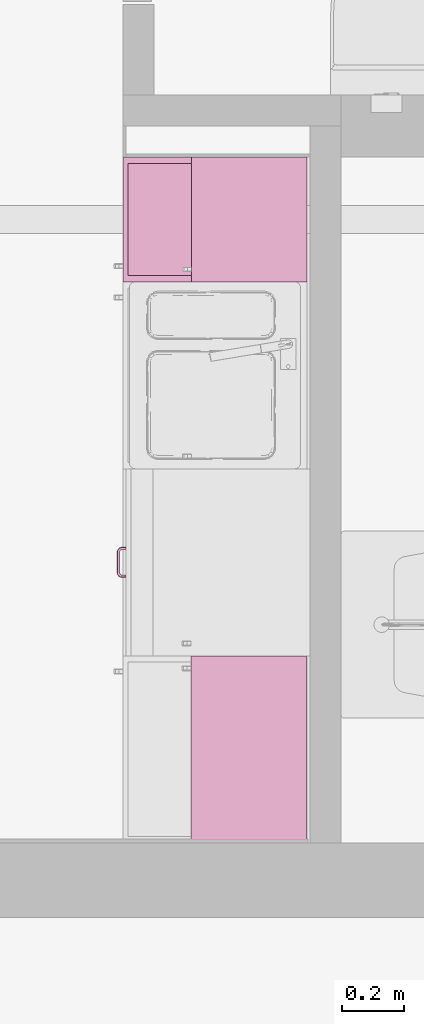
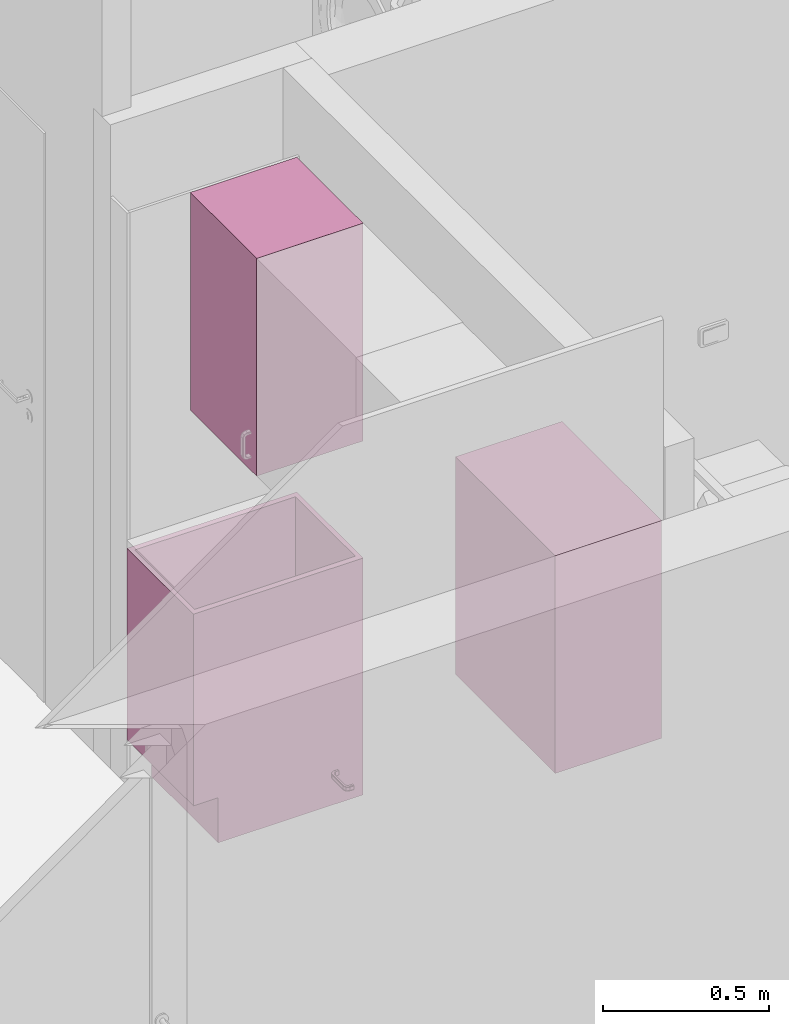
# One storey, part 14 of 15: 4 furnishings.
"""IFC2X3 building model written with IfcOpenShell, lengths in millimetres."""

from ifc_helpers import new_model, entity, si_unit, converted_unit, direction, frame, origin, place, context, subcontext, project, spatial, faceted_brep, source, transform, mapped, material, material_list, type_object, type_shapes, element, save


model = new_model("IFC2X3")

# Units and contexts
model_context = context("Model", 3, precision=0.01, world=origin(), true_north=direction((0.0, 1.0)))
body_context = subcontext(model_context, "Body", "Model", "MODEL_VIEW")
ifc_project = project(units=[si_unit("LENGTHUNIT", "METRE", prefix="MILLI"), si_unit("AREAUNIT", "SQUARE_METRE"), si_unit("VOLUMEUNIT", "CUBIC_METRE"), converted_unit("PLANEANGLEUNIT", "DEGREE", entity("IfcPlaneAngleMeasure", 0.017453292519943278), si_unit("PLANEANGLEUNIT", "RADIAN"), dimensions=[0, 0, 0, 0, 0, 0, 0])], contexts=[model_context])

# Site, building, storey, space
site_placement = place(None, origin())
site = spatial("IfcSite", under=ifc_project, at=site_placement, Name="Default", CompositionType="ELEMENT")
building_placement = place(site_placement, origin())
building = spatial("IfcBuilding", under=site, at=building_placement, CompositionType="ELEMENT")
storey_placement = place(building_placement, origin())
storey = spatial("IfcBuildingStorey", under=building, at=storey_placement, Name="Et. 1", CompositionType="ELEMENT", Elevation=0.0)
space_placement = place(storey_placement, frame((11562.567419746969, 11865.190261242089, 0.0)))
space = spatial("IfcSpace", under=storey, at=space_placement, Name="107", CompositionType="ELEMENT", InteriorOrExteriorSpace="INTERNAL")

# Furnishings
ifc_material_1 = material(Name="Focus - Kjøkken - Front")
ifc_material_2 = material(Name="Focus - Kjøkken - Skapstamme")
ifc_material_list = material_list([ifc_material_1, ifc_material_2])
furniture_type_1 = type_object("IfcFurnitureType", Name="Focus - Kjøkken - Benkeskap  1  dør:400 mm", AssemblyPlace="NOTDEFINED", material=ifc_material_list)
shared_shape_1 = source(origin(), body_context, "Body", "Brep", [
    faceted_brep([(-54.58506095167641, 177.81681120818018, 870.0), (-54.58506095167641, 177.81681120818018, 166.0), (-454.5850609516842, 177.81681120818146, 166.0), (-454.5850609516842, 177.81681120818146, 870.0), (-54.58506095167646, 161.81681120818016, 870.0), (-454.5850609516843, 161.81681120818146, 870.0), (-454.5850609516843, 161.81681120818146, 166.0), (-54.58506095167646, 161.81681120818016, 166.0)], [[[0, 1, 2, 3]], [[4, 5, 6, 7]], [[1, 0, 4, 7]], [[2, 1, 7, 6]], [[3, 2, 6, 5]], [[0, 3, 5, 4]]]),
    faceted_brep([(-54.58506095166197, 751.8168112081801, 166.0), (-454.5850609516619, 751.8168112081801, 166.0), (-454.5850609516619, 247.81681120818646, 166.0), (-54.58506095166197, 247.81681120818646, 166.0), (-54.58506095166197, 751.8168112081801, 0.0), (-54.58506095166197, 247.81681120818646, 0.0), (-454.5850609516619, 247.81681120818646, 0.0), (-454.5850609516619, 751.8168112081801, 0.0)], [[[0, 1, 2, 3]], [[4, 5, 6, 7]], [[1, 0, 4, 7]], [[2, 1, 7, 6]], [[3, 2, 6, 5]], [[0, 3, 5, 4]]]),
    faceted_brep([(-434.58506095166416, 177.81681120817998, 870.0), (-454.58506095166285, 177.81681120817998, 870.0), (-454.58506095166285, 177.81681120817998, 166.0), (-54.585060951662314, 177.81681120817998, 166.0), (-54.585060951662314, 177.81681120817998, 870.0), (-74.58506095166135, 177.81681120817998, 870.0), (-74.58506095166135, 177.81681120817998, 190.0), (-434.58506095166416, 177.81681120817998, 190.0), (-54.585060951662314, 751.8168112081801, 870.0), (-54.585060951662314, 751.8168112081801, 166.0), (-454.58506095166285, 751.8168112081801, 166.0), (-454.58506095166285, 751.8168112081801, 870.0), (-434.58506095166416, 735.8168112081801, 870.0), (-74.58506095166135, 735.8168112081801, 870.0), (-454.58506095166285, 735.8168112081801, 166.0), (-54.585060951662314, 735.8168112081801, 166.0), (-74.58506095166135, 735.8168112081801, 190.0), (-434.58506095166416, 735.8168112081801, 190.0)], [[[0, 1, 2, 3, 4, 5, 6, 7]], [[8, 9, 10, 11]], [[1, 0, 12, 13, 5, 4, 8, 11]], [[2, 1, 11, 10, 14]], [[3, 2, 14, 10, 9, 15]], [[8, 4, 3, 15, 9]], [[6, 5, 13, 16]], [[7, 6, 16, 17]], [[0, 7, 17, 12]], [[13, 12, 17, 16]]]),
])
type_shapes(furniture_type_1, [shared_shape_1])
furnishing_1_placement = place(space_placement, frame((4876.183188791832, 1733.4149390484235, 0.0), z_axis=(0.0, 0.0, 1.0), x_axis=(0.0, -1.0, 0.0)))
element("IfcFurnishingElement", 1, at=furnishing_1_placement, inside=space, type_object=furniture_type_1, material=ifc_material_list, Name="Focus - Kjøkken - Benkeskap  1  dør:400 mm", context=body_context, shape_type="MappedRepresentation", body=[
    mapped(shared_shape_1, transform((0.0, 0.0, 0.0), scale=1.0)),
])
furniture_type_2 = type_object("IfcFurnitureType", Name="Focus - Kjøkken - Veggskap 1 dør:600x370x400", AssemblyPlace="NOTDEFINED", material=ifc_material_list)
shared_shape_2 = source(origin(), body_context, "Body", "Brep", [
    faceted_brep([(45.41493904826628, -397.81681120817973, 2100.0), (-554.5850609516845, -397.8168112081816, 2100.0), (-554.5850609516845, -397.8168112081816, 1300.0), (45.414939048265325, -397.81681120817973, 1300.0), (45.41493904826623, -381.8168112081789, 2100.0), (45.414939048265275, -381.8168112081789, 1300.0), (-554.5850609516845, -381.81681120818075, 1300.0), (-554.5850609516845, -381.81681120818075, 2100.0)], [[[0, 1, 2, 3]], [[4, 5, 6, 7]], [[3, 5, 4, 0]], [[2, 6, 5, 3]], [[1, 7, 6, 2]], [[0, 4, 7, 1]]]),
    faceted_brep([(45.41493904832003, -751.816811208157, 2100.0), (45.4149390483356, -397.8168112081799, 2100.0), (-554.5850609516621, -397.8168112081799, 2100.0), (-554.5850609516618, -751.816811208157, 2100.0), (45.41493904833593, -397.8168112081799, 1300.0), (45.41493904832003, -751.8168112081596, 1300.0), (-554.5850609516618, -751.8168112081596, 1300.0), (-554.5850609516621, -397.8168112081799, 1300.0), (-538.5850609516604, -735.8168112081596, 1316.0), (-538.5850609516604, -735.816811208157, 2084.0), (29.414939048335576, -735.816811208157, 2084.0), (29.414939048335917, -735.8168112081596, 1316.0), (29.414939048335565, -397.8168112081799, 2084.0), (-538.5850609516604, -397.8168112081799, 2084.0), (-538.5850609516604, -397.8168112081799, 1316.0), (29.414939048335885, -397.8168112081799, 1316.0)], [[[0, 1, 2, 3]], [[4, 5, 6, 7]], [[3, 6, 5, 0]], [[2, 7, 6, 3]], [[8, 9, 10, 11]], [[0, 5, 4, 1]], [[1, 4, 7, 2], [12, 13, 14, 15]], [[14, 8, 11, 15]], [[13, 9, 8, 14]], [[12, 10, 9, 13]], [[15, 11, 10, 12]]]),
])
type_shapes(furniture_type_2, [shared_shape_2])
furnishing_2_placement = place(space_placement, frame((4874.183188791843, 542.5850609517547, 0.0), z_axis=(0.0, 0.0, 1.0), x_axis=(0.0, 1.0, 0.0)))
element("IfcFurnishingElement", 2, at=furnishing_2_placement, inside=space, type_object=furniture_type_2, material=ifc_material_list, Name="Focus - Kjøkken - Veggskap 1 dør:600x370x400", context=body_context, shape_type="MappedRepresentation", body=[
    mapped(shared_shape_2, transform((0.0, 0.0, 0.0), scale=1.0)),
])
furniture_type_3 = type_object("IfcFurnitureType", Name="Focus - Kjøkken - Veggskap 1 dør:400x370x800", AssemblyPlace="NOTDEFINED", material=ifc_material_list)
shared_shape_3 = source(origin(), body_context, "Body", "Brep", [
    faceted_brep([(-54.58506095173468, 397.8168112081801, 2100.0), (-54.58506095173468, 397.8168112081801, 1300.0), (-454.58506095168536, 397.8168112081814, 1300.0), (-454.58506095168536, 397.8168112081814, 2100.0), (-54.58506095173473, 381.8168112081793, 2100.0), (-454.5850609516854, 381.8168112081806, 2100.0), (-454.5850609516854, 381.8168112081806, 1300.0), (-54.58506095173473, 381.8168112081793, 1300.0)], [[[0, 1, 2, 3]], [[4, 5, 6, 7]], [[1, 0, 4, 7]], [[2, 1, 7, 6]], [[3, 2, 6, 5]], [[0, 3, 5, 4]]]),
    faceted_brep([(-54.58506095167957, 751.8168112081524, 2100.0), (-454.5850609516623, 751.8168112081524, 2100.0), (-454.585060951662, 397.8168112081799, 2100.0), (-54.58506095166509, 397.8168112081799, 2100.0), (-54.58506095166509, 397.8168112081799, 1300.0), (-454.585060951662, 397.8168112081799, 1300.0), (-454.5850609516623, 751.8168112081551, 1300.0), (-54.58506095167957, 751.8168112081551, 1300.0), (-438.58506095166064, 735.816811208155, 1316.0), (-70.5850609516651, 735.816811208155, 1316.0), (-70.5850609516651, 735.8168112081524, 2084.0), (-438.58506095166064, 735.8168112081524, 2084.0), (-70.5850609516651, 397.8168112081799, 2084.0), (-70.5850609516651, 397.8168112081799, 1316.0), (-438.58506095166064, 397.8168112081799, 1316.0), (-438.58506095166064, 397.8168112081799, 2084.0)], [[[0, 1, 2, 3]], [[4, 5, 6, 7]], [[1, 0, 7, 6]], [[2, 1, 6, 5]], [[8, 9, 10, 11]], [[0, 3, 4, 7]], [[3, 2, 5, 4], [12, 13, 14, 15]], [[14, 13, 9, 8]], [[15, 14, 8, 11]], [[12, 15, 11, 10]], [[13, 12, 10, 9]]]),
])
type_shapes(furniture_type_3, [shared_shape_3])
furnishing_3_placement = place(space_placement, frame((4876.183188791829, 1733.4149390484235, 0.0), z_axis=(0.0, 0.0, 1.0), x_axis=(0.0, -1.0, 0.0)))
element("IfcFurnishingElement", 3, at=furnishing_3_placement, inside=space, type_object=furniture_type_3, material=ifc_material_list, Name="Focus - Kjøkken - Veggskap 1 dør:400x370x800", context=body_context, shape_type="MappedRepresentation", body=[
    mapped(shared_shape_3, transform((0.0, 0.0, 0.0), scale=1.0)),
])
ifc_material_3 = material(Name="Focus - Kjøkken - Håndtak")
furniture_type_4 = type_object("IfcFurnitureType", Name="Focus - Håndtak Skuff:Håndtak skuff", AssemblyPlace="NOTDEFINED", material=ifc_material_3)
shared_shape_4 = source(origin(), body_context, "Body", "Brep", [
    faceted_brep([(-49.01997065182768, 0.0, -6.018434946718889), (-49.02222703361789, 0.0, 5.981564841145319), (-48.436706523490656, 0.0, 7.395888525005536), (-47.022603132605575, 0.0, 7.981940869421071), (-40.98040382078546, 0.0, 7.983076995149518), (-40.97739531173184, 0.0, -8.0169227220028), (-47.01959462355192, 0.0, -8.018058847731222), (-48.433918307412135, 0.0, -7.432538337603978), (47.022603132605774, 0.0, -8.000375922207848), (40.980403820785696, 0.0, -8.001512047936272), (40.97739531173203, 0.0, 7.9984876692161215), (47.01959462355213, 0.0, 7.999623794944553), (48.43391830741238, 0.0, 7.414103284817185), (49.01997065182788, 0.0, 5.999999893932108), (49.02222703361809, 0.0, -5.9999998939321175), (48.436706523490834, 0.0, -7.414323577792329), (-49.02222703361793, -13.0, 5.981564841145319), (-48.43670652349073, -13.0, 7.395888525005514), (-47.729654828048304, -13.0, 7.688914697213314), (-47.022603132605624, -13.0, 7.981940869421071), (-45.53091023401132, -16.601265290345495, 7.982221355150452), (-44.223414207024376, -19.757839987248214, 7.982467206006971), (-42.91591818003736, -22.91441468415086, 7.9827130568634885), (-40.43731455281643, -23.941085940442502, 7.983179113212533), (-37.95871092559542, -24.96775719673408, 7.983645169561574), (-35.48010729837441, -25.99442845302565, 7.984111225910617), (-33.0015036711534, -27.02109970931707, 7.984577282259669), (-20.656464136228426, -27.021099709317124, 7.9868985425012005), (-8.311424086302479, -27.02109970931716, 7.989219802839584), (2.0160558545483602, -27.02109970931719, 7.991161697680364), (12.343535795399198, -27.02109970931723, 7.993103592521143), (20.653455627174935, -27.02109970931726, 7.9946661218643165), (32.9984951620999, -27.021099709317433, 7.996987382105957), (36.599760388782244, -25.529406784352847, 7.99766453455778), (39.75633502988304, -24.221910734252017, 7.99825807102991), (42.912909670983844, -22.914414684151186, 7.998851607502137), (43.939580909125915, -20.435811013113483, 7.999044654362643), (44.966252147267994, -17.957207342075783, 7.999237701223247), (45.99292338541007, -15.478603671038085, 7.99943074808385), (47.01959462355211, -13.0, 7.9996237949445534), (40.97739531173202, -13.0, 7.998487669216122), (38.64042956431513, -18.64193450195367, 7.998048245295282), (32.998495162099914, -20.97890029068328, 7.996987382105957), (-33.00150367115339, -20.978900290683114, 7.984577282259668), (-38.64343807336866, -18.64193450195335, 7.983516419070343), (-40.980403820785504, -13.0, 7.983076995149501), (-40.97739531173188, -13.0, -8.016922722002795), (47.022603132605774, -13.0, -8.000375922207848), (45.53091021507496, -16.601265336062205, -8.000656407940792), (44.2234141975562, -19.757840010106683, -8.00090225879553), (42.915918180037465, -22.914414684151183, -8.001148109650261), (40.43731455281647, -23.941085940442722, -8.00161416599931), (37.95871092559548, -24.967757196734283, -8.002080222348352), (35.4801072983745, -25.994428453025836, -8.002546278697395), (33.00150367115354, -27.021099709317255, -8.003012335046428), (20.656463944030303, -27.021099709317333, -8.005333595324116), (10.32898409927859, -27.02109970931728, -8.007275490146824), (0.0015042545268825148, -27.021099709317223, -8.009217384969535), (-10.325975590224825, -27.021099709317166, -8.011159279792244), (-20.653455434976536, -27.02109970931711, -8.013101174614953), (-32.998495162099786, -27.021099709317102, -8.01542243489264), (-36.599760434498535, -25.529406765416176, -8.016099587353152), (-39.75633505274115, -24.221910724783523, -8.016693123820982), (-42.91290967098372, -22.91441468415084, -8.017286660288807), (-43.93958090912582, -20.435811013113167, -8.017479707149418), (-44.9662521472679, -17.957207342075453, -8.017672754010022), (-45.99292338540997, -15.478603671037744, -8.017865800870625), (-47.01959462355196, -13.0, -8.01805884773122), (-38.64042956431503, -18.64193450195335, -8.01648329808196), (-32.99849516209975, -20.97890029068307, -8.01542243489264), (33.001503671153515, -20.978900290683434, -8.003012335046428), (38.64343807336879, -18.641934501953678, -8.00195147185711), (40.980403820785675, -13.0, -8.001512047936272), (-48.4339183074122, -13.0, -7.4325383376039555), (-48.80321719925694, -13.0, -6.541445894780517), (-49.0199706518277, -13.0, -6.018434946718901), (-44.412974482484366, -22.64140263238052, 7.759259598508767), (-46.35897290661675, -19.755916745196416, 7.743265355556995), (-40.207409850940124, -25.954055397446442, 7.815248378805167), (-44.329755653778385, -24.328628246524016, 5.982447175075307), (-43.3815306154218, -25.002953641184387, 6.747992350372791), (-45.57655804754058, -22.341444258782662, 7.121035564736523), (-46.03884122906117, -20.202530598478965, 5.982125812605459), (-47.865589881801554, -17.92350079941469, 7.1303130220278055), (-38.60103139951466, -27.65191996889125, 7.0924541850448), (-40.203658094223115, -26.037713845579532, 5.983223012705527), (-38.66544163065, -26.674863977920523, 5.983512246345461), (-36.60239285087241, -27.529406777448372, 5.983900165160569), (-42.26670687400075, -25.183171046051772, 5.982835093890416), (-36.525296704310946, -27.45420228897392, 7.7912613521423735), (-47.50416098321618, -16.529274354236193, 7.765454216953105), (-47.53053413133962, -16.6012652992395, 5.981845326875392), (-42.18138620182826, -25.408731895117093, 7.397064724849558), (-41.087587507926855, -26.597477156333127, 6.85663739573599), (-45.50287349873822, -21.49647118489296, 5.982226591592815), (-33.00122595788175, -28.804444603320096, 6.507629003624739), (-35.69791310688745, -28.53877057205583, 6.952460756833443), (-35.83328461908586, -27.847981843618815, 5.984044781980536), (-33.00112760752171, -29.02109970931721, 5.98457731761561), (-33.001393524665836, -28.435313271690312, 7.398790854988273), (-46.675991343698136, -18.66431412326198, 5.98200600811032), (-41.49759864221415, -25.501746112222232, 5.982979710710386), (-47.52827775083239, -16.601265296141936, -6.0181544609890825), (-47.84685280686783, -15.832157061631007, -6.018214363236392), (-36.52781006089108, -27.50269824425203, -7.799689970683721), (-39.75445657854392, -26.357514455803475, -7.777892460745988), (-47.65058244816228, -18.5996953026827, -7.127107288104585), (-46.036584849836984, -20.202530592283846, -6.017873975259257), (-46.67373496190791, -18.66431412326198, -6.017993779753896), (-47.70896034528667, -16.04875452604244, -7.749127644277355), (-46.59154452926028, -19.340507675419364, -7.762569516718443), (-46.373359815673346, -21.540484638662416, -6.783304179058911), (-45.18204206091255, -22.26557941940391, -6.017713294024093), (-45.500617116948, -21.49647118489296, -6.017773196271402), (-37.92215596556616, -27.864246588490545, -7.164878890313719), (-42.34010114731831, -25.575216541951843, -7.156001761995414), (-40.20140170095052, -26.037713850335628, -6.016776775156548), (-45.40733702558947, -22.17999277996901, -7.4319692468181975), (-42.63993947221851, -24.41151305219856, -7.794063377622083), (-44.52051892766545, -23.855367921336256, -6.870601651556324), (-32.998605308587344, -28.435313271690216, -7.429636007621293), (-36.600136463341, -27.529406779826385, -6.016099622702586), (-41.49534226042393, -25.501746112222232, -6.0170200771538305), (-44.32749927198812, -24.32862824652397, -6.0175526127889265), (-32.99855023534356, -27.72820649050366, -7.722529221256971), (-48.53745944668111, -15.696603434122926, -6.9867347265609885), (-32.99887122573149, -29.02109970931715, -6.015422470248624), (-38.663185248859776, -26.674863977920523, -6.016487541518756), (-15.492613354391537, -28.43531328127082, 7.402083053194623), (20.6538311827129, -29.021099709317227, 5.994666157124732), (32.99860530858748, -28.435313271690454, 7.4112009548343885), (16.49860559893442, -28.435313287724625, 7.408098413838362), (-3.14758080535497, -28.397558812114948, 7.441176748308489), (32.99855023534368, -27.728206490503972, 7.704094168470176), (32.99887122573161, -29.02109970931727, 5.996987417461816), (-20.65608796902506, -29.0210997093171, 5.986898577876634), (-10.328607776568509, -29.02109970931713, 5.988840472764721), (10.326351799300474, -29.02109970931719, 5.99272426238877), (-0.0011279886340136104, -29.021099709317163, 5.990782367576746), (-15.489824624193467, -28.435313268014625, -7.426343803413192), (-8.308791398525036, -29.02109970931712, -6.010779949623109), (-20.653831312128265, -29.02109970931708, -6.013101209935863), (20.656087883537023, -29.021099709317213, -6.005333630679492), (12.346168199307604, -29.02109970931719, -6.006896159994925), (2.0186884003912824, -29.021099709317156, -6.008838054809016), (16.501393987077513, -28.435313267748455, -7.42032843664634), (33.001393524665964, -28.43531327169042, -7.417225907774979), (33.00122595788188, -28.80444460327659, -6.526064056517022), (33.00112760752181, -29.021099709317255, -6.003012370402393), (-3.1447921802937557, -28.47208571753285, -7.386268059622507), (42.6399395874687, -24.41151297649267, 7.775628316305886), (39.75445668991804, -26.3575143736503, 7.75945742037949), (45.95258191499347, -20.20593789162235, 7.831449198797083), (44.32749927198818, -24.328628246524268, 5.9991175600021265), (45.18204205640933, -22.26557943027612, 5.999278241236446), (45.00168074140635, -23.380259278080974, 6.76461120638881), (40.20140169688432, -26.03771385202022, 5.998341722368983), (42.340101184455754, -25.575216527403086, 7.137566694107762), (37.9221559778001, -27.86424657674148, 7.14644384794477), (47.65058242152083, -18.599695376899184, 7.108672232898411), (46.03658484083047, -20.20253061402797, 5.999438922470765), (46.67373496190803, -18.664314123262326, 5.999558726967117), (47.528277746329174, -16.60126530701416, 5.999719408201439), (46.596183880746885, -21.08629578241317, 6.873124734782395), (45.500617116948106, -21.4964711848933, 5.999338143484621), (47.452733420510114, -16.52382932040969, 7.807051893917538), (36.52781014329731, -27.502698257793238, 7.781254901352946), (36.60013646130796, -27.52940678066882, 5.997664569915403), (45.40733698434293, -22.17999283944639, 7.413534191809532), (41.49534226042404, -25.501746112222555, 5.998585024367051), (48.80321719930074, -13.0, 6.52301084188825), (48.53745943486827, -15.696603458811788, 6.968299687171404), (47.84685280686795, -15.832157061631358, 5.999779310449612), (49.01997065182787, -13.0, 5.999999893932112), (48.43391830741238, -13.0, 7.41410328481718), (38.66318524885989, -26.674863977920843, 5.998052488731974), (36.60239284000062, -27.52940678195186, -6.002335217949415), (35.83328461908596, -27.847981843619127, -6.002479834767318), (47.504160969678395, -16.529274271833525, -7.7838892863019), (46.35897298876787, -19.755916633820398, -7.761700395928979), (38.60103132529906, -27.651919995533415, -7.110889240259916), (40.20365807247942, -26.037713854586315, -6.001658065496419), (38.66544163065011, -26.67486397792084, -6.001947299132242), (36.050207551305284, -27.710414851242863, -7.733378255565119), (39.34196320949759, -26.593001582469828, -7.746411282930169), (41.54175600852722, -26.374632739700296, -6.766773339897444), (42.26670686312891, -25.183171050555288, -6.001270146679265), (41.49759864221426, -25.501746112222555, -6.001414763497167), (47.86558989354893, -17.923500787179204, -7.148748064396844), (45.57655806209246, -22.341444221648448, -7.13947063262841), (46.03884122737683, -20.20253060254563, -6.00056086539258), (42.18138614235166, -25.408731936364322, -7.41549977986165), (44.412974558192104, -22.64140251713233, -7.777694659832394), (43.85665573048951, -24.521808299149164, -6.853983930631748), (48.436706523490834, -13.0, -7.414323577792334), (47.530534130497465, -16.601265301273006, -6.000280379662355), (45.50287349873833, -21.496471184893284, -6.000661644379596), (44.3297556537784, -24.32862824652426, -6.00088222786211), (47.729654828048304, -13.0, -7.707349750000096), (35.697913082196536, -28.538770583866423, -6.970895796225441), (49.02222703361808, -13.0, -5.99999989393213), (46.675991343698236, -18.6643141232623, -6.000441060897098)], [[[0, 1, 2, 3, 4, 5, 6, 7]], [[8, 9, 10, 11, 12, 13, 14, 15]], [[16, 17, 2, 1]], [[2, 17, 18, 19, 3]], [[4, 3, 19, 20, 21, 22, 23, 24, 25, 26, 27, 28, 29, 30, 31, 32, 33, 34, 35, 36, 37, 38, 39, 11, 10, 40, 41, 42, 43, 44, 45]], [[5, 4, 45, 46]], [[9, 8, 47, 48, 49, 50, 51, 52, 53, 54, 55, 56, 57, 58, 59, 60, 61, 62, 63, 64, 65, 66, 67, 6, 5, 46, 68, 69, 70, 71, 72]], [[67, 73, 7, 6]], [[7, 73, 74, 75, 0]], [[1, 0, 75, 16]], [[76, 21, 77]], [[78, 24, 23]], [[79, 80, 81]], [[82, 81, 83]], [[84, 85, 86, 87]], [[80, 79, 88]], [[89, 24, 78]], [[90, 77, 20]], [[17, 91, 83]], [[92, 93, 84]], [[81, 82, 94, 79]], [[87, 95, 96]], [[77, 83, 81]], [[23, 76, 78]], [[93, 92, 80]], [[22, 76, 23]], [[90, 17, 83]], [[19, 18, 17, 90]], [[95, 87, 97, 98]], [[99, 26, 89]], [[76, 77, 81]], [[20, 19, 90]], [[92, 76, 81]], [[21, 76, 22]], [[21, 20, 77]], [[83, 77, 90]], [[91, 17, 16]], [[83, 91, 100, 82]], [[93, 88, 101, 85]], [[81, 80, 92]], [[88, 93, 80]], [[85, 84, 93]], [[76, 92, 78]], [[92, 84, 78]], [[89, 78, 84]], [[84, 96, 89]], [[89, 26, 25, 24]], [[96, 95, 99]], [[89, 96, 99]], [[87, 96, 84]], [[44, 68, 46, 45]], [[43, 69, 68, 44]], [[74, 102, 103, 75]], [[104, 105, 61]], [[106, 107, 108, 102]], [[109, 110, 106]], [[111, 112, 113, 107]], [[105, 114, 115]], [[115, 114, 116]], [[110, 64, 117]], [[118, 62, 105]], [[106, 110, 117]], [[117, 119, 111]], [[120, 121, 114]], [[115, 116, 122, 123]], [[112, 111, 119]], [[111, 106, 117]], [[63, 118, 64]], [[104, 120, 114]], [[60, 124, 120, 104]], [[109, 125, 73]], [[125, 109, 106]], [[118, 105, 115]], [[61, 60, 104]], [[118, 115, 119]], [[62, 118, 63]], [[62, 61, 105]], [[114, 105, 104]], [[121, 120, 126]], [[114, 121, 127, 116]], [[106, 111, 107]], [[118, 119, 117]], [[115, 123, 119]], [[112, 119, 123]], [[64, 118, 117]], [[125, 74, 73]], [[102, 74, 125]], [[102, 125, 106]], [[73, 67, 109]], [[66, 65, 64, 110]], [[110, 109, 66]], [[109, 67, 66]], [[122, 116, 127, 121, 126, 98, 97, 87, 86, 85, 101, 88, 79, 123]], [[79, 94, 82, 100, 91, 16, 75, 103, 102, 108, 107, 113, 112, 123]], [[128, 27, 99]], [[129, 130, 131]], [[29, 132, 131]], [[31, 130, 133, 32]], [[27, 26, 99]], [[129, 134, 130]], [[135, 99, 95, 98]], [[128, 99, 135, 136]], [[31, 30, 29, 131]], [[136, 132, 128]], [[31, 131, 130]], [[28, 27, 128]], [[132, 137, 131]], [[28, 132, 29]], [[136, 138, 137, 132]], [[28, 128, 132]], [[137, 129, 131]], [[69, 43, 42, 70]], [[139, 140, 141, 126, 120]], [[142, 143, 144, 145, 146, 147, 148]], [[55, 146, 145, 56]], [[139, 59, 58]], [[144, 149, 145]], [[55, 54, 146]], [[139, 120, 124, 60, 59]], [[58, 149, 139]], [[149, 56, 145]], [[140, 149, 144]], [[58, 57, 56, 149]], [[140, 139, 149]], [[126, 141, 140, 144, 143, 142, 148, 134, 129, 137, 138, 136, 135, 98]], [[150, 34, 151]], [[152, 37, 36]], [[153, 154, 155]], [[156, 157, 158]], [[159, 160, 161, 162]], [[163, 154, 164, 160]], [[165, 37, 152]], [[166, 151, 33]], [[130, 167, 158]], [[168, 163, 159]], [[157, 156, 169, 153]], [[162, 170, 171]], [[151, 158, 157]], [[36, 150, 152]], [[163, 168, 155]], [[35, 150, 36]], [[166, 130, 158]], [[32, 133, 130, 166]], [[170, 162, 172, 173]], [[174, 39, 165]], [[150, 151, 157]], [[33, 32, 166]], [[168, 150, 157]], [[34, 150, 35]], [[34, 33, 151]], [[158, 151, 166]], [[167, 130, 134]], [[158, 167, 175, 156]], [[168, 157, 155]], [[157, 153, 155]], [[154, 163, 155]], [[160, 159, 163]], [[150, 168, 152]], [[168, 159, 152]], [[165, 152, 159]], [[159, 171, 165]], [[165, 39, 38, 37]], [[171, 170, 174]], [[165, 171, 174]], [[162, 171, 159]], [[41, 71, 70, 42]], [[40, 72, 71, 41]], [[147, 176, 177, 148]], [[178, 179, 48]], [[180, 181, 182, 176]], [[183, 184, 180]], [[185, 186, 187, 181]], [[179, 188, 189]], [[189, 188, 190]], [[184, 51, 191]], [[192, 49, 179]], [[180, 184, 191]], [[191, 193, 185]], [[194, 195, 188]], [[189, 190, 196, 197]], [[186, 185, 193]], [[193, 191, 192]], [[50, 192, 51]], [[178, 194, 188]], [[47, 198, 194, 178]], [[183, 199, 146]], [[199, 183, 180]], [[192, 179, 189]], [[48, 47, 178]], [[192, 189, 193]], [[49, 192, 50]], [[49, 48, 179]], [[188, 179, 178]], [[195, 194, 200]], [[188, 195, 201, 190]], [[181, 180, 185]], [[180, 191, 185]], [[189, 197, 193]], [[186, 193, 197]], [[51, 192, 191]], [[199, 147, 146]], [[176, 147, 199]], [[176, 199, 180]], [[146, 54, 183]], [[53, 52, 51, 184]], [[184, 183, 53]], [[183, 54, 53]], [[196, 190, 201, 195, 200, 173, 172, 162, 161, 160, 164, 154, 153, 197]], [[153, 169, 156, 175, 167, 134, 148, 177, 176, 182, 181, 187, 186, 197]], [[13, 12, 174, 170, 173]], [[174, 12, 11, 39]], [[72, 40, 10, 9]], [[8, 15, 194, 198, 47]], [[194, 15, 14, 200]], [[173, 200, 14, 13]]]),
])
type_shapes(furniture_type_4, [shared_shape_4])
furnishing_4_placement = place(space_placement, frame((5048.0, 888.0, 805.0), z_axis=(0.0, 0.0, 1.0), x_axis=(0.0, -1.0, 0.0)))
element("IfcFurnishingElement", 4, at=furnishing_4_placement, inside=space, type_object=furniture_type_4, material=ifc_material_3, Name="Focus - Håndtak Skuff:Håndtak skuff", context=body_context, shape_type="MappedRepresentation", body=[
    mapped(shared_shape_4, transform((0.0, 0.0, 0.0), scale=1.0)),
])

save(model, "model.ifc")
